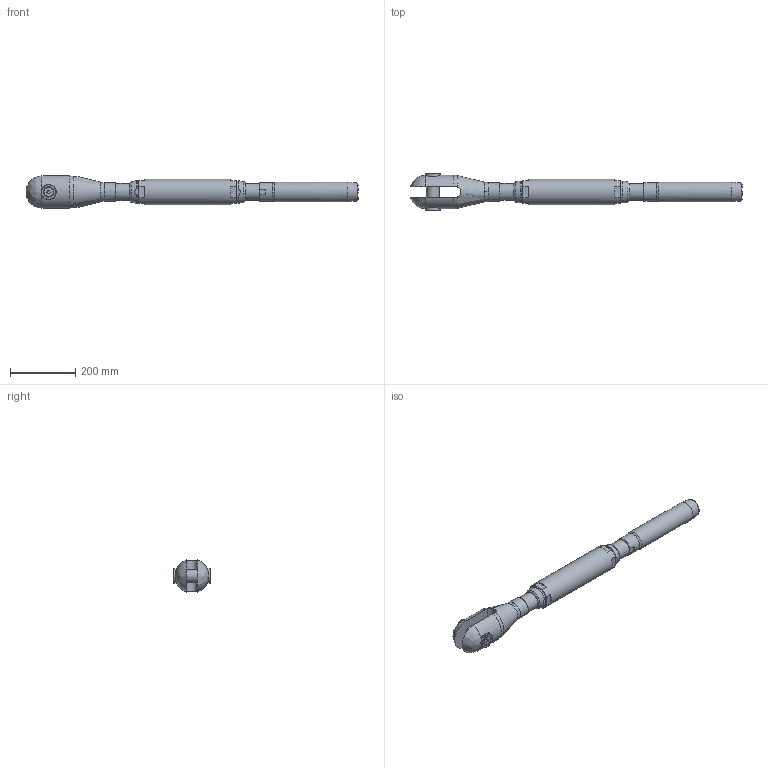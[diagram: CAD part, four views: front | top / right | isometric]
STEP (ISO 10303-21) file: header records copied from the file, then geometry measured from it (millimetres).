
FILE_DESCRIPTION(/* description */ (''),/* implementation_level */ '2;1');
FILE_NAME(/* name */ 'TBC 28_S355',/* time_stamp */ '2023-05-23T18:17:40+02:00',/* author */ (''),/* organization */ (''),/* preprocessor_version */ 'ST-DEVELOPER v16.5',/* originating_system */ 'Rhino 7.22',/* authorisation */ '');
FILE_SCHEMA (('CONFIG_CONTROL_DESIGN'));
Length unit declared in the file: millimetre
Products named in the file (1): Document
Bounding box: 1014.9 x 112.49 x 97.9 mm (x, y, z)
Volume: 3655998.9 mm3; surface area: 404314.4 mm2
Topology: 10 solids, 10 shells, 140 faces, 382 edges, 264 vertices
Faces by surface type: plane 65, bspline 40, cylinder 35
Full cylindrical faces by diameter (mm): 13.835 x2, 16 x2, 17 x2, 29.01 x2, 39 x1, 41 x2, 45 x2, 48.752 x4, 52 x2, 56 x1, 57.2 x2, 60.5 x1, 78 x1
Entity records: 5927 total; most frequent: CARTESIAN_POINT 3502, ORIENTED_EDGE 756, EDGE_CURVE 378, VERTEX_POINT 264, EDGE_LOOP 160, B_SPLINE_CURVE_WITH_KNOTS 157, ADVANCED_FACE 140, FACE_OUTER_BOUND 140
